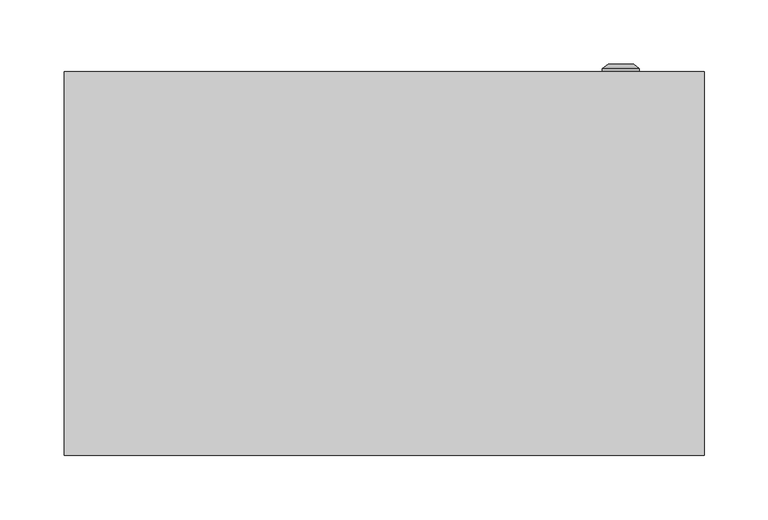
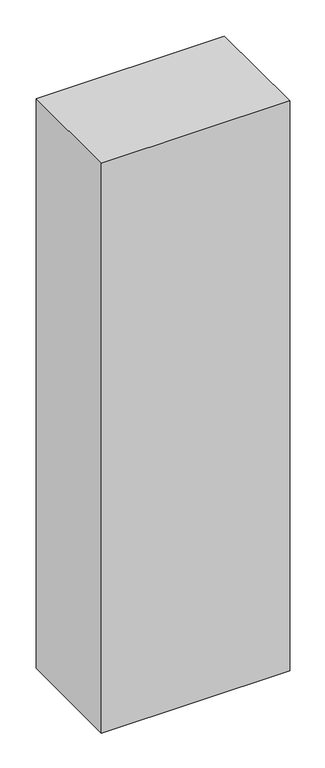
"""IFC4 building model written with IfcOpenShell, lengths in millimetres: proxy geometry, ШРС : ШРС-2_1600х500х300."""

from ifc_helpers import new_model, si_unit, frame, origin, place, context, project, spatial, polyline, circle_curve, outline, extrude, faceted_brep, source, transform, mapped, element, save
from ifc_brep_helpers import plane_surface, cylinder_surface, revolved_surface, advanced_brep


def electrical_equipment_c2dde389(model_context):
    return source(origin(), model_context, "Body", "SolidModel", [
        faceted_brep([(236.0, 280.0, 1535.0), (236.0, 280.0, 65.0187804), (-236.0, 280.0, 65.0187804), (-236.0, 280.0, 1535.0), (215.8707865, 280.0, 93.3701084), (215.8707865, 280.0, 1492.9861595), (-213.3426966, 280.0, 1492.9861595), (-213.3426966, 280.0, 93.3701084), (-250.0, 0.0, 1600.0), (-250.0, 300.0, 1600.0), (-250.0, 300.0, 0.0), (-250.0, 0.0, 0.0), (250.0, 300.0, 1600.0), (250.0, 0.0, 1600.0), (250.0, 0.0, 0.0), (250.0, 300.0, 0.0), (-213.3426966, 10.0, 93.3701084), (215.8707865, 10.0, 93.3701084), (-213.3426966, 10.0, 1492.9861595), (215.8707865, 10.0, 1492.9861595), (236.0, 300.0, 1535.0), (-236.0, 300.0, 1535.0), (236.0, 300.0, 65.0187804), (-236.0, 300.0, 65.0187804)], [[[0, 1, 2, 3], [4, 5, 6, 7]], [[8, 9, 10, 11]], [[12, 13, 14, 15]], [[4, 7, 16, 17]], [[7, 6, 18, 16]], [[6, 5, 19, 18]], [[5, 4, 17, 19]], [[12, 9, 8, 13]], [[20, 0, 3, 21]], [[9, 12, 15, 10], [22, 20, 21, 23]], [[14, 13, 8, 11]], [[1, 22, 23, 2]], [[15, 14, 11, 10]], [[20, 22, 1, 0]], [[23, 21, 3, 2]], [[17, 16, 18, 19]]]),
        extrude(outline(polyline([(-205.8707865, 125.9831461), (-165.8707865, 125.9831461), (-165.8707865, 93.1179775), (-168.8707865, 93.1179775), (-168.8707865, 122.9831461), (-202.8707865, 122.9831461), (-202.8707865, 93.1179775), (-205.8707865, 93.1179775), (-205.8707865, 125.9831461)])), frame((0.0, 0.0, 189.6067416), z_axis=(0.0, 0.0, 1.0), x_axis=(1.0, 0.0, 0.0)), (0.0, 0.0, 1.0), 1345.3932584),
        extrude(outline(polyline([(165.8707865, 125.9831461), (205.8707865, 125.9831461), (205.8707865, 93.1179775), (202.8707865, 93.1179775), (202.8707865, 122.9831461), (168.8707865, 122.9831461), (168.8707865, 93.1179775), (165.8707865, 93.1179775), (165.8707865, 125.9831461)])), frame((0.0, 0.0, 189.6067416), z_axis=(0.0, 0.0, 1.0), x_axis=(1.0, 0.0, 0.0)), (0.0, 0.0, 1.0), 1345.3932584),
        extrude(outline(polyline([(-205.8707865, 10.0), (-215.8707865, 10.0), (-215.8707865, 280.0), (-205.8707865, 280.0), (-205.8707865, 10.0)])), frame((0.0, 0.0, 1445.5966059), z_axis=(0.0, 0.0, 1.0), x_axis=(1.0, 0.0, 0.0)), (0.0, 0.0, 1.0), 53.0898876),
        extrude(outline(polyline([(215.8707865, 10.0), (205.8707865, 10.0), (205.8707865, 280.0), (215.8707865, 280.0), (215.8707865, 10.0)])), frame((0.0, 0.0, 1445.5966059), z_axis=(0.0, 0.0, 1.0), x_axis=(1.0, 0.0, 0.0)), (0.0, 0.0, 1.0), 53.0898876),
        extrude(outline(polyline([(-205.8707865, 10.0), (-215.8707865, 10.0), (-215.8707865, 280.0), (-205.8707865, 280.0), (-205.8707865, 10.0)])), frame((0.0, 0.0, 255.5966059), z_axis=(0.0, 0.0, 1.0), x_axis=(1.0, 0.0, 0.0)), (0.0, 0.0, 1.0), 53.0898876),
        extrude(outline(polyline([(215.8707865, 10.0), (205.8707865, 10.0), (205.8707865, 280.0), (215.8707865, 280.0), (215.8707865, 10.0)])), frame((0.0, 0.0, 255.5966059), z_axis=(0.0, 0.0, 1.0), x_axis=(1.0, 0.0, 0.0)), (0.0, 0.0, 1.0), 53.0898876),
        extrude(outline(polyline([(-205.8707865, 10.0), (-215.8707865, 10.0), (-215.8707865, 280.0), (-205.8707865, 280.0), (-205.8707865, 10.0)])), frame((0.0, 0.0, 735.5966059), z_axis=(0.0, 0.0, 1.0), x_axis=(1.0, 0.0, 0.0)), (0.0, 0.0, 1.0), 53.0898876),
        extrude(outline(polyline([(215.8707865, 10.0), (205.8707865, 10.0), (205.8707865, 280.0), (215.8707865, 280.0), (215.8707865, 10.0)])), frame((0.0, 0.0, 735.5966059), z_axis=(0.0, 0.0, 1.0), x_axis=(1.0, 0.0, 0.0)), (0.0, 0.0, 1.0), 53.0898876),
        advanced_brep(
        [(170.669873, 300.0, 315.0), (199.330127, 300.0, 315.0), (185.0, 300.0, 315.0), (170.669873, 302.366592, 315.0), (199.330127, 302.366592, 315.0), (175.0, 306.0, 315.0), (195.0, 306.0, 315.0), (183.1080471, 306.0, 315.0), (186.8919529, 306.0, 315.0), (183.1080471, 304.9822294, 315.0), (186.8919529, 304.9822294, 315.0), (185.0, 304.9822294, 315.0)],
        [
            (0, 1, circle_curve(frame((185.0, 300.0, 315.0), z_axis=(0.0, -1.0, 0.0), x_axis=(1.0, 0.0, 0.0)), 14.330127)),
            (1, 2),
            (2, 0),
            (1, 0, circle_curve(frame((185.0, 300.0, 315.0), z_axis=(0.0, -1.0, 0.0), x_axis=(1.0, 0.0, 0.0)), 14.330127)),
            (3, 4, circle_curve(frame((185.0, 302.366592, 315.0), z_axis=(0.0, -1.0, 0.0), x_axis=(1.0, 0.0, 0.0)), 14.330127)),
            (4, 1),
            (0, 3),
            (4, 3, circle_curve(frame((185.0, 302.366592, 315.0), z_axis=(0.0, -1.0, 0.0), x_axis=(1.0, 0.0, 0.0)), 14.330127)),
            (5, 6, circle_curve(frame((185.0, 306.0, 315.0), z_axis=(0.0, -1.0, 0.0), x_axis=(1.0, 0.0, 0.0)), 10.0)),
            (6, 4),
            (3, 5),
            (6, 5, circle_curve(frame((185.0, 306.0, 315.0), z_axis=(0.0, -1.0, 0.0), x_axis=(1.0, 0.0, 0.0)), 10.0)),
            (7, 8, circle_curve(frame((185.0, 306.0, 315.0), z_axis=(0.0, -1.0, 0.0), x_axis=(1.0, 0.0, 0.0)), 1.8919529)),
            (8, 6),
            (5, 7),
            (8, 7, circle_curve(frame((185.0, 306.0, 315.0), z_axis=(0.0, -1.0, 0.0), x_axis=(1.0, 0.0, 0.0)), 1.8919529)),
            (9, 10, circle_curve(frame((185.0, 304.9822294, 315.0), z_axis=(0.0, -1.0, 0.0), x_axis=(1.0, 0.0, 0.0)), 1.8919529)),
            (10, 8),
            (7, 9),
            (10, 9, circle_curve(frame((185.0, 304.9822294, 315.0), z_axis=(0.0, -1.0, 0.0), x_axis=(1.0, 0.0, 0.0)), 1.8919529)),
            (11, 10),
            (9, 11),
        ],
        [
            plane_surface(frame((185.0, 300.0, 315.0), z_axis=(0.0, -1.0, 0.0), x_axis=(1.0, 0.0, 0.0))),
            cylinder_surface(frame((185.0, 313.1348851, 315.0), z_axis=(0.0, 1.0, 0.0), x_axis=(1.0, 0.0, 0.0)), 14.330127),
            revolved_surface(polyline([(199.330127, 302.366592, 315.0), (195.0, 306.0, 315.0)]), (185.0, 313.1348851, 315.0), (0.0, 1.0, 0.0)),
            plane_surface(frame((185.0, 306.0, 315.0), z_axis=(0.0, 1.0, 0.0), x_axis=(1.0, 0.0, 0.0))),
            revolved_surface(polyline([(186.8919529, 306.0, 315.0), (186.8919529, 304.9822294, 315.0)]), (185.0, 313.1348851, 315.0), (0.0, 1.0, 0.0)),
            plane_surface(frame((185.0, 304.9822294, 315.0), z_axis=(0.0, 1.0, 0.0), x_axis=(1.0, 0.0, 0.0))),
        ],
        [
            (0, [[1, 2, 3]]),
            (0, [[4, -3, -2]]),
            (1, [[5, 6, -1, 7]]),
            (1, [[8, -7, -4, -6]]),
            (2, [[9, 10, -5, 11]]),
            (2, [[12, -11, -8, -10]]),
            (3, [[13, 14, -9, 15]]),
            (3, [[16, -15, -12, -14]]),
            (4, [[17, 18, -13, 19]]),
            (4, [[20, -19, -16, -18]]),
            (5, [[21, -17, 22]]),
            (5, [[-22, -20, -21]]),
        ],
    ),
        advanced_brep(
        [(170.669873, 300.0, 1285.0), (199.330127, 300.0, 1285.0), (185.0, 300.0, 1285.0), (170.669873, 302.366592, 1285.0), (199.330127, 302.366592, 1285.0), (175.0, 306.0, 1285.0), (195.0, 306.0, 1285.0), (183.1080471, 306.0, 1285.0), (186.8919529, 306.0, 1285.0), (183.1080471, 304.9822294, 1285.0), (186.8919529, 304.9822294, 1285.0), (185.0, 304.9822294, 1285.0)],
        [
            (0, 1, circle_curve(frame((185.0, 300.0, 1285.0), z_axis=(0.0, -1.0, 0.0), x_axis=(1.0, 0.0, 0.0)), 14.330127)),
            (1, 2),
            (2, 0),
            (1, 0, circle_curve(frame((185.0, 300.0, 1285.0), z_axis=(0.0, -1.0, 0.0), x_axis=(1.0, 0.0, 0.0)), 14.330127)),
            (3, 4, circle_curve(frame((185.0, 302.366592, 1285.0), z_axis=(0.0, -1.0, 0.0), x_axis=(1.0, 0.0, 0.0)), 14.330127)),
            (4, 1),
            (0, 3),
            (4, 3, circle_curve(frame((185.0, 302.366592, 1285.0), z_axis=(0.0, -1.0, 0.0), x_axis=(1.0, 0.0, 0.0)), 14.330127)),
            (5, 6, circle_curve(frame((185.0, 306.0, 1285.0), z_axis=(0.0, -1.0, 0.0), x_axis=(1.0, 0.0, 0.0)), 10.0)),
            (6, 4),
            (3, 5),
            (6, 5, circle_curve(frame((185.0, 306.0, 1285.0), z_axis=(0.0, -1.0, 0.0), x_axis=(1.0, 0.0, 0.0)), 10.0)),
            (7, 8, circle_curve(frame((185.0, 306.0, 1285.0), z_axis=(0.0, -1.0, 0.0), x_axis=(1.0, 0.0, 0.0)), 1.8919529)),
            (8, 6),
            (5, 7),
            (8, 7, circle_curve(frame((185.0, 306.0, 1285.0), z_axis=(0.0, -1.0, 0.0), x_axis=(1.0, 0.0, 0.0)), 1.8919529)),
            (9, 10, circle_curve(frame((185.0, 304.9822294, 1285.0), z_axis=(0.0, -1.0, 0.0), x_axis=(1.0, 0.0, 0.0)), 1.8919529)),
            (10, 8),
            (7, 9),
            (10, 9, circle_curve(frame((185.0, 304.9822294, 1285.0), z_axis=(0.0, -1.0, 0.0), x_axis=(1.0, 0.0, 0.0)), 1.8919529)),
            (11, 10),
            (9, 11),
        ],
        [
            plane_surface(frame((185.0, 300.0, 1285.0), z_axis=(0.0, -1.0, 0.0), x_axis=(1.0, 0.0, 0.0))),
            cylinder_surface(frame((185.0, 313.1348851, 1285.0), z_axis=(0.0, 1.0, 0.0), x_axis=(1.0, 0.0, 0.0)), 14.330127),
            revolved_surface(polyline([(199.330127, 302.366592, 1285.0), (195.0, 306.0, 1285.0)]), (185.0, 313.1348851, 1285.0), (0.0, 1.0, 0.0)),
            plane_surface(frame((185.0, 306.0, 1285.0), z_axis=(0.0, 1.0, 0.0), x_axis=(1.0, 0.0, 0.0))),
            revolved_surface(polyline([(186.8919529, 306.0, 1285.0), (186.8919529, 304.9822294, 1285.0)]), (185.0, 313.1348851, 1285.0), (0.0, 1.0, 0.0)),
            plane_surface(frame((185.0, 304.9822294, 1285.0), z_axis=(0.0, 1.0, 0.0), x_axis=(1.0, 0.0, 0.0))),
        ],
        [
            (0, [[1, 2, 3]]),
            (0, [[4, -3, -2]]),
            (1, [[5, 6, -1, 7]]),
            (1, [[8, -7, -4, -6]]),
            (2, [[9, 10, -5, 11]]),
            (2, [[12, -11, -8, -10]]),
            (3, [[13, 14, -9, 15]]),
            (3, [[16, -15, -12, -14]]),
            (4, [[17, 18, -13, 19]]),
            (4, [[20, -19, -16, -18]]),
            (5, [[21, -17, 22]]),
            (5, [[-22, -20, -21]]),
        ],
    ),
        extrude(outline(polyline([(235.0, 280.0), (-235.0, 280.0), (-235.0, 300.0), (235.0, 300.0), (235.0, 280.0)])), frame((0.0, 0.0, 65.0187804), z_axis=(0.0, 0.0, 1.0), x_axis=(1.0, 0.0, 0.0)), (0.0, 0.0, 1.0), 1469.9812196),
    ])


if __name__ == "__main__":
    model = new_model("IFC4")
    model_context = context("Model", 3, world=origin())
    ifc_project = project(units=[si_unit("LENGTHUNIT", "METRE", prefix="MILLI")], contexts=[model_context])
    site = spatial("IfcSite", under=ifc_project)
    building = spatial("IfcBuilding", under=site)
    placement = place(None, origin())
    electrical_equipment_shape = electrical_equipment_c2dde389(model_context)
    element("IfcBuildingElementProxy", 1, Name="ШРС : ШРС-2_1600х500х300", ObjectType="ШРС : ШРС-2_1600х500х300", at=placement, inside=building, context=model_context, shape_type="MappedRepresentation", body=[
        mapped(electrical_equipment_shape, transform((0.0, 0.0, 0.0), x_axis=(1.0, 0.0, 0.0), y_axis=(0.0, 1.0, 0.0), z_axis=(0.0, 0.0, 1.0))),
    ])
    save(model, "model.ifc")
